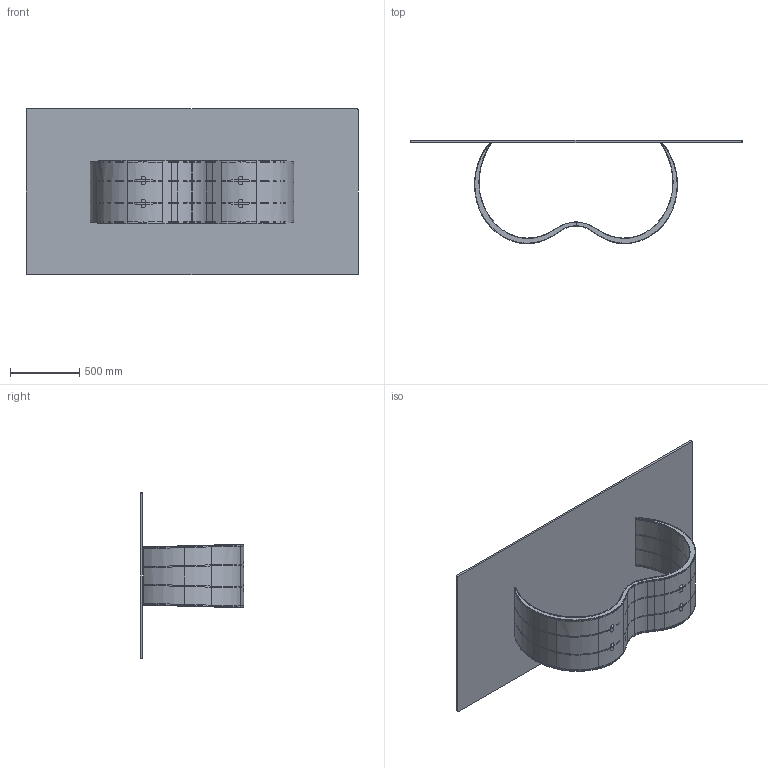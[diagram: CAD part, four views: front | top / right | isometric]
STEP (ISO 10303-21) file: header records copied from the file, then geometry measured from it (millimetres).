
FILE_DESCRIPTION (( 'STEP AP203' ), '1' );
FILE_NAME ('AI23G_Alisei_240x120_Glass Rectangular.STEP', '2024-07-31T12:50:18', ( '' ), ( '' ), 'SwSTEP 2.0', 'SolidWorks 2022', '' );
FILE_SCHEMA (( 'CONFIG_CONTROL_DESIGN' ));
Length unit declared in the file: millimetre
Products named in the file (13): ALI000000_01-00-LAMIERA CALANDRATA ESTERNA; ALI000000_03-00-MEZZA COSTOLA ESTERNA_SpecchiaturaSpecchiaturaDefault; ALI000001_05-00-APPOGGIO PIANO; ALI000000_04-00-MEZZA COSTOLA INTERNA; C2XCRXX-00-Piani Rettangolari Cristallo_23 2400x1200; GOMMINO PVC; ALI000000_04-00-MEZZA COSTOLA INTERNA_SpecchiaturaSpecchiaturaDefault; ALI000000_02-00-LAMIERA CALANDRATA INTERNA; ALI000000_04-00-MEZZA COSTOLA INTERNA_SpecchiaturaDefault; ALI000000_03-00-MEZZA COSTOLA ESTERNA; AI23G_Alisei_240x120_Glass Rectangular; ALI000000_03-00-MEZZA COSTOLA ESTERNA_SpecchiaturaDefault; ALI000000-00-ALISEI BASE METALLO L240 GREZZO
Assembly tree (18 placements, depth 3):
  AI23G_Alisei_240x120_Glass Rectangular
    ALI000000-00-ALISEI BASE METALLO L240 GREZZO
      ALI000000_01-00-LAMIERA CALANDRATA ESTERNA
      ALI000000_02-00-LAMIERA CALANDRATA INTERNA
      ALI000000_03-00-MEZZA COSTOLA ESTERNA
      ALI000000_04-00-MEZZA COSTOLA INTERNA
      ALI000000_03-00-MEZZA COSTOLA ESTERNA_SpecchiaturaDefault  x2
      ALI000000_04-00-MEZZA COSTOLA INTERNA_SpecchiaturaDefault  x2
      ALI000000_03-00-MEZZA COSTOLA ESTERNA_SpecchiaturaSpecchiaturaDefault
      ALI000000_04-00-MEZZA COSTOLA INTERNA_SpecchiaturaSpecchiaturaDefault
      ALI000001_05-00-APPOGGIO PIANO  x2
    GOMMINO PVC  x4
    C2XCRXX-00-Piani Rettangolari Cristallo_23 2400x1200
Bounding box: 2400 x 746 x 1200 mm (x, y, z)
Volume: 50412873.6 mm3; surface area: 11373189.8 mm2
Topology: 17 solids, 17 shells, 1038 faces, 2876 edges, 1864 vertices
Faces by surface type: bspline 552, plane 326, cylinder 144, torus 16
Entity records: 39698 total; most frequent: CARTESIAN_POINT 20714, ORIENTED_EDGE 4934, EDGE_CURVE 2467, DIRECTION 2155, VERTEX_POINT 1598, VECTOR 1133, LINE 1133, EDGE_LOOP 969
